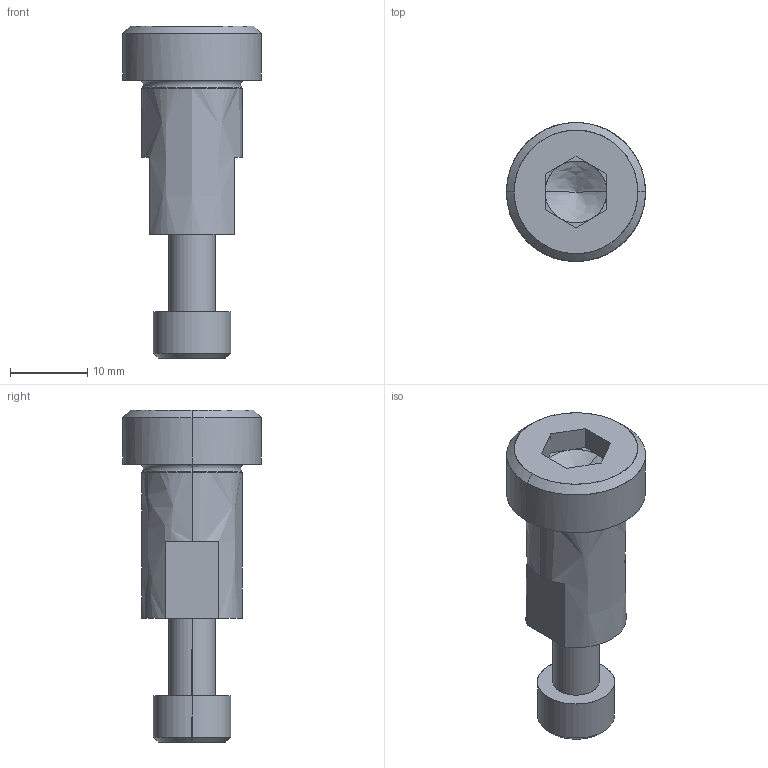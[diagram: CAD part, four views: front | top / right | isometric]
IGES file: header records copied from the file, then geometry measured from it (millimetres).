
Global section: file name: E:\UnigraphicsGraphicData\MISUMI_PRESS-PARTS\IGES\3d_sbt13-20_05059_r00.igs; native system: NX V5.0; preprocessor: UGS NX IGES V5.0; author: MISUMI; date: 20110105.162433; units: millimetre
Bounding box: 18 x 18 x 43 mm (x, y, z)
Surface area: 2949.4 mm2 (no closed solid volume)
Topology: 0 solids, 0 shells, 56 faces, 310 edges, 306 vertices
Faces by surface type: bspline 56
